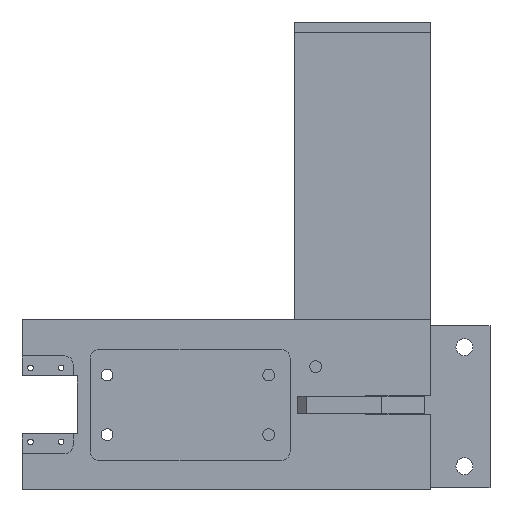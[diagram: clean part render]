
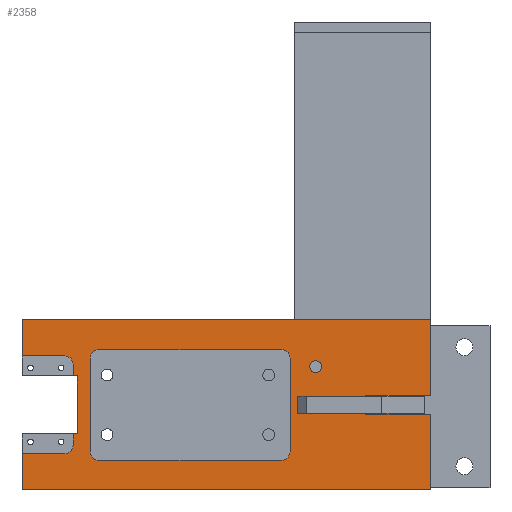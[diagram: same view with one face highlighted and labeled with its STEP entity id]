
A CAD part, top view. The second image highlights one B-rep face of the part: STEP entity #2358.
In plain terms, the highlighted planar face has unit normal (0, 0, 1) as drawn and (0, 0, -1) by its records, which use the part's own axes.
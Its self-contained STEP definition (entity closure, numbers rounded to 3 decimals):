
#71=FACE_BOUND('',#350,.T.);
#72=FACE_BOUND('',#351,.T.);
#113=PLANE('',#2652);
#219=FACE_OUTER_BOUND('',#349,.T.);
#349=EDGE_LOOP('',(#1743,#1744,#1745,#1746,#1747,#1748,#1749,#1750,#1751,
#1752,#1753,#1754,#1755,#1756,#1757,#1758,#1759,#1760));
#350=EDGE_LOOP('',(#1761));
#351=EDGE_LOOP('',(#1762,#1763,#1764,#1765,#1766,#1767,#1768,#1769));
#495=LINE('',#3565,#758);
#501=LINE('',#3581,#764);
#504=LINE('',#3593,#767);
#510=LINE('',#3608,#773);
#514=LINE('',#3620,#777);
#517=LINE('',#3629,#780);
#521=LINE('',#3638,#784);
#524=LINE('',#3643,#787);
#528=LINE('',#3651,#791);
#529=LINE('',#3654,#792);
#530=LINE('',#3656,#793);
#531=LINE('',#3657,#794);
#532=LINE('',#3659,#795);
#533=LINE('',#3661,#796);
#534=LINE('',#3663,#797);
#535=LINE('',#3665,#798);
#536=LINE('',#3667,#799);
#537=LINE('',#3669,#800);
#538=LINE('',#3671,#801);
#539=LINE('',#3672,#802);
#758=VECTOR('',#2888,10.);
#764=VECTOR('',#2902,10.);
#767=VECTOR('',#2913,10.);
#773=VECTOR('',#2927,10.);
#777=VECTOR('',#2939,10.);
#780=VECTOR('',#2950,10.);
#784=VECTOR('',#2958,10.);
#787=VECTOR('',#2963,10.);
#791=VECTOR('',#2969,10.);
#792=VECTOR('',#2972,10.);
#793=VECTOR('',#2973,10.);
#794=VECTOR('',#2974,10.);
#795=VECTOR('',#2975,10.);
#796=VECTOR('',#2976,10.);
#797=VECTOR('',#2977,10.);
#798=VECTOR('',#2978,10.);
#799=VECTOR('',#2979,10.);
#800=VECTOR('',#2980,10.);
#801=VECTOR('',#2981,10.);
#802=VECTOR('',#2982,10.);
#1006=CIRCLE('',#2597,6.918);
#1025=CIRCLE('',#2625,10.);
#1027=CIRCLE('',#2630,10.);
#1029=CIRCLE('',#2634,10.);
#1031=CIRCLE('',#2638,10.);
#1033=CIRCLE('',#2642,10.);
#1035=CIRCLE('',#2646,10.);
#1076=VERTEX_POINT('',#3493);
#1096=VERTEX_POINT('',#3550);
#1097=VERTEX_POINT('',#3552);
#1101=VERTEX_POINT('',#3564);
#1104=VERTEX_POINT('',#3571);
#1105=VERTEX_POINT('',#3573);
#1107=VERTEX_POINT('',#3579);
#1110=VERTEX_POINT('',#3586);
#1111=VERTEX_POINT('',#3588);
#1112=VERTEX_POINT('',#3592);
#1116=VERTEX_POINT('',#3601);
#1117=VERTEX_POINT('',#3603);
#1120=VERTEX_POINT('',#3613);
#1121=VERTEX_POINT('',#3615);
#1123=VERTEX_POINT('',#3624);
#1126=VERTEX_POINT('',#3637);
#1127=VERTEX_POINT('',#3641);
#1130=VERTEX_POINT('',#3649);
#1131=VERTEX_POINT('',#3653);
#1132=VERTEX_POINT('',#3655);
#1133=VERTEX_POINT('',#3658);
#1134=VERTEX_POINT('',#3660);
#1135=VERTEX_POINT('',#3662);
#1136=VERTEX_POINT('',#3664);
#1137=VERTEX_POINT('',#3666);
#1138=VERTEX_POINT('',#3668);
#1139=VERTEX_POINT('',#3670);
#1298=EDGE_CURVE('',#1076,#1076,#1006,.T.);
#1327=EDGE_CURVE('',#1096,#1097,#1025,.T.);
#1333=EDGE_CURVE('',#1101,#1097,#495,.T.);
#1337=EDGE_CURVE('',#1104,#1105,#1027,.T.);
#1341=EDGE_CURVE('',#1104,#1107,#501,.T.);
#1344=EDGE_CURVE('',#1110,#1111,#1029,.T.);
#1346=EDGE_CURVE('',#1112,#1111,#504,.T.);
#1351=EDGE_CURVE('',#1116,#1117,#1031,.T.);
#1354=EDGE_CURVE('',#1110,#1117,#510,.T.);
#1357=EDGE_CURVE('',#1120,#1121,#1033,.T.);
#1360=EDGE_CURVE('',#1116,#1121,#514,.T.);
#1362=EDGE_CURVE('',#1112,#1123,#1035,.T.);
#1365=EDGE_CURVE('',#1120,#1123,#517,.T.);
#1369=EDGE_CURVE('',#1126,#1105,#521,.T.);
#1372=EDGE_CURVE('',#1096,#1127,#524,.T.);
#1376=EDGE_CURVE('',#1107,#1130,#528,.T.);
#1377=EDGE_CURVE('',#1127,#1131,#529,.T.);
#1378=EDGE_CURVE('',#1131,#1132,#530,.T.);
#1379=EDGE_CURVE('',#1132,#1126,#531,.T.);
#1380=EDGE_CURVE('',#1130,#1133,#532,.T.);
#1381=EDGE_CURVE('',#1133,#1134,#533,.T.);
#1382=EDGE_CURVE('',#1134,#1135,#534,.T.);
#1383=EDGE_CURVE('',#1135,#1136,#535,.T.);
#1384=EDGE_CURVE('',#1136,#1137,#536,.T.);
#1385=EDGE_CURVE('',#1137,#1138,#537,.T.);
#1386=EDGE_CURVE('',#1138,#1139,#538,.T.);
#1387=EDGE_CURVE('',#1139,#1101,#539,.T.);
#1743=ORIENTED_EDGE('',*,*,#1333,.T.);
#1744=ORIENTED_EDGE('',*,*,#1327,.F.);
#1745=ORIENTED_EDGE('',*,*,#1372,.T.);
#1746=ORIENTED_EDGE('',*,*,#1377,.T.);
#1747=ORIENTED_EDGE('',*,*,#1378,.T.);
#1748=ORIENTED_EDGE('',*,*,#1379,.T.);
#1749=ORIENTED_EDGE('',*,*,#1369,.T.);
#1750=ORIENTED_EDGE('',*,*,#1337,.F.);
#1751=ORIENTED_EDGE('',*,*,#1341,.T.);
#1752=ORIENTED_EDGE('',*,*,#1376,.T.);
#1753=ORIENTED_EDGE('',*,*,#1380,.T.);
#1754=ORIENTED_EDGE('',*,*,#1381,.T.);
#1755=ORIENTED_EDGE('',*,*,#1382,.T.);
#1756=ORIENTED_EDGE('',*,*,#1383,.T.);
#1757=ORIENTED_EDGE('',*,*,#1384,.T.);
#1758=ORIENTED_EDGE('',*,*,#1385,.T.);
#1759=ORIENTED_EDGE('',*,*,#1386,.T.);
#1760=ORIENTED_EDGE('',*,*,#1387,.T.);
#1761=ORIENTED_EDGE('',*,*,#1298,.T.);
#1762=ORIENTED_EDGE('',*,*,#1354,.T.);
#1763=ORIENTED_EDGE('',*,*,#1351,.F.);
#1764=ORIENTED_EDGE('',*,*,#1360,.T.);
#1765=ORIENTED_EDGE('',*,*,#1357,.F.);
#1766=ORIENTED_EDGE('',*,*,#1365,.T.);
#1767=ORIENTED_EDGE('',*,*,#1362,.F.);
#1768=ORIENTED_EDGE('',*,*,#1346,.T.);
#1769=ORIENTED_EDGE('',*,*,#1344,.F.);
#2358=ADVANCED_FACE('',(#219,#71,#72),#113,.T.);
#2597=AXIS2_PLACEMENT_3D('',#3494,#2811,#2812);
#2625=AXIS2_PLACEMENT_3D('',#3553,#2877,#2878);
#2630=AXIS2_PLACEMENT_3D('',#3574,#2895,#2896);
#2634=AXIS2_PLACEMENT_3D('',#3589,#2908,#2909);
#2638=AXIS2_PLACEMENT_3D('',#3604,#2921,#2922);
#2642=AXIS2_PLACEMENT_3D('',#3616,#2933,#2934);
#2646=AXIS2_PLACEMENT_3D('',#3625,#2944,#2945);
#2652=AXIS2_PLACEMENT_3D('',#3652,#2970,#2971);
#2811=DIRECTION('center_axis',(0.,0.,1.));
#2812=DIRECTION('ref_axis',(-1.,0.,0.));
#2877=DIRECTION('center_axis',(0.,0.,-1.));
#2878=DIRECTION('ref_axis',(0.707,-0.707,0.));
#2888=DIRECTION('',(1.,0.,0.));
#2895=DIRECTION('center_axis',(0.,0.,-1.));
#2896=DIRECTION('ref_axis',(0.707,0.707,0.));
#2902=DIRECTION('',(-1.,0.,0.));
#2908=DIRECTION('center_axis',(0.,0.,-1.));
#2909=DIRECTION('ref_axis',(-0.707,0.707,0.));
#2913=DIRECTION('',(-1.,0.,0.));
#2921=DIRECTION('center_axis',(0.,0.,-1.));
#2922=DIRECTION('ref_axis',(-0.707,-0.707,0.));
#2927=DIRECTION('',(0.,-1.,0.));
#2933=DIRECTION('center_axis',(0.,0.,-1.));
#2934=DIRECTION('ref_axis',(0.707,-0.707,0.));
#2939=DIRECTION('',(1.,0.,0.));
#2944=DIRECTION('center_axis',(0.,0.,-1.));
#2945=DIRECTION('ref_axis',(0.707,0.707,0.));
#2950=DIRECTION('',(0.,1.,0.));
#2958=DIRECTION('',(0.,1.,0.));
#2963=DIRECTION('',(0.,1.,0.));
#2969=DIRECTION('',(0.,1.,0.));
#2970=DIRECTION('center_axis',(0.,0.,-1.));
#2971=DIRECTION('ref_axis',(-1.,0.,0.));
#2972=DIRECTION('',(1.,0.,0.));
#2973=DIRECTION('',(0.,1.,0.));
#2974=DIRECTION('',(-1.,0.,0.));
#2975=DIRECTION('',(1.,0.,0.));
#2976=DIRECTION('',(0.,-1.,0.));
#2977=DIRECTION('',(-1.,0.,0.));
#2978=DIRECTION('',(0.,-1.,0.));
#2979=DIRECTION('',(1.,0.,0.));
#2980=DIRECTION('',(0.,-1.,0.));
#2981=DIRECTION('',(-1.,0.,0.));
#2982=DIRECTION('',(0.,1.,0.));
#3493=CARTESIAN_POINT('',(-128.083,-45.,-30.));
#3494=CARTESIAN_POINT('Origin',(-135.,-45.,-30.));
#3550=CARTESIAN_POINT('',(-420.,-47.5,-30.));
#3552=CARTESIAN_POINT('',(-430.,-57.5,-30.));
#3553=CARTESIAN_POINT('Origin',(-430.,-47.5,-30.));
#3564=CARTESIAN_POINT('',(-480.,-57.5,-30.));
#3565=CARTESIAN_POINT('',(-360.,-57.5,-30.));
#3571=CARTESIAN_POINT('',(-430.,57.5,-30.));
#3573=CARTESIAN_POINT('',(-420.,47.5,-30.));
#3574=CARTESIAN_POINT('Origin',(-430.,47.5,-30.));
#3579=CARTESIAN_POINT('',(-480.,57.5,-30.));
#3581=CARTESIAN_POINT('',(-330.,57.5,-30.));
#3586=CARTESIAN_POINT('',(-400.,55.,-30.));
#3588=CARTESIAN_POINT('',(-390.,65.,-30.));
#3589=CARTESIAN_POINT('Origin',(-390.,55.,-30.));
#3592=CARTESIAN_POINT('',(-175.,65.,-30.));
#3593=CARTESIAN_POINT('',(-202.5,65.,-30.));
#3601=CARTESIAN_POINT('',(-390.,-65.,-30.));
#3603=CARTESIAN_POINT('',(-400.,-55.,-30.));
#3604=CARTESIAN_POINT('Origin',(-390.,-55.,-30.));
#3608=CARTESIAN_POINT('',(-400.,32.5,-30.));
#3613=CARTESIAN_POINT('',(-165.,-55.,-30.));
#3615=CARTESIAN_POINT('',(-175.,-65.,-30.));
#3616=CARTESIAN_POINT('Origin',(-175.,-55.,-30.));
#3620=CARTESIAN_POINT('',(-320.,-65.,-30.));
#3624=CARTESIAN_POINT('',(-165.,55.,-30.));
#3625=CARTESIAN_POINT('Origin',(-175.,55.,-30.));
#3629=CARTESIAN_POINT('',(-165.,-32.5,-30.));
#3637=CARTESIAN_POINT('',(-420.,34.,-30.));
#3638=CARTESIAN_POINT('',(-420.,-28.75,-30.));
#3641=CARTESIAN_POINT('',(-420.,-34.,-30.));
#3643=CARTESIAN_POINT('',(-420.,-28.75,-30.));
#3649=CARTESIAN_POINT('',(-480.,100.,-30.));
#3651=CARTESIAN_POINT('',(-480.,100.,-30.));
#3652=CARTESIAN_POINT('Origin',(-240.,0.,
-30.));
#3653=CARTESIAN_POINT('',(-415.,-34.,-30.));
#3654=CARTESIAN_POINT('',(-360.,-34.,-30.));
#3655=CARTESIAN_POINT('',(-415.,34.,-30.));
#3656=CARTESIAN_POINT('',(-415.,-17.,-30.));
#3657=CARTESIAN_POINT('',(-327.5,34.,-30.));
#3658=CARTESIAN_POINT('',(0.,100.,-30.));
#3659=CARTESIAN_POINT('',(0.,100.,-30.));
#3660=CARTESIAN_POINT('',(0.,11.,-30.));
#3661=CARTESIAN_POINT('',(0.,-100.,-30.));
#3662=CARTESIAN_POINT('',(-76.,11.,-30.));
#3663=CARTESIAN_POINT('',(-120.,11.,-30.));
#3664=CARTESIAN_POINT('',(-76.,-11.,-30.));
#3665=CARTESIAN_POINT('',(-76.,5.5,-30.));
#3666=CARTESIAN_POINT('',(0.,-11.,-30.));
#3667=CARTESIAN_POINT('',(-158.,-11.,-30.));
#3668=CARTESIAN_POINT('',(0.,-100.,-30.));
#3669=CARTESIAN_POINT('',(0.,-100.,-30.));
#3670=CARTESIAN_POINT('',(-480.,-100.,-30.));
#3671=CARTESIAN_POINT('',(-480.,-100.,-30.));
#3672=CARTESIAN_POINT('',(-480.,100.,-30.));
